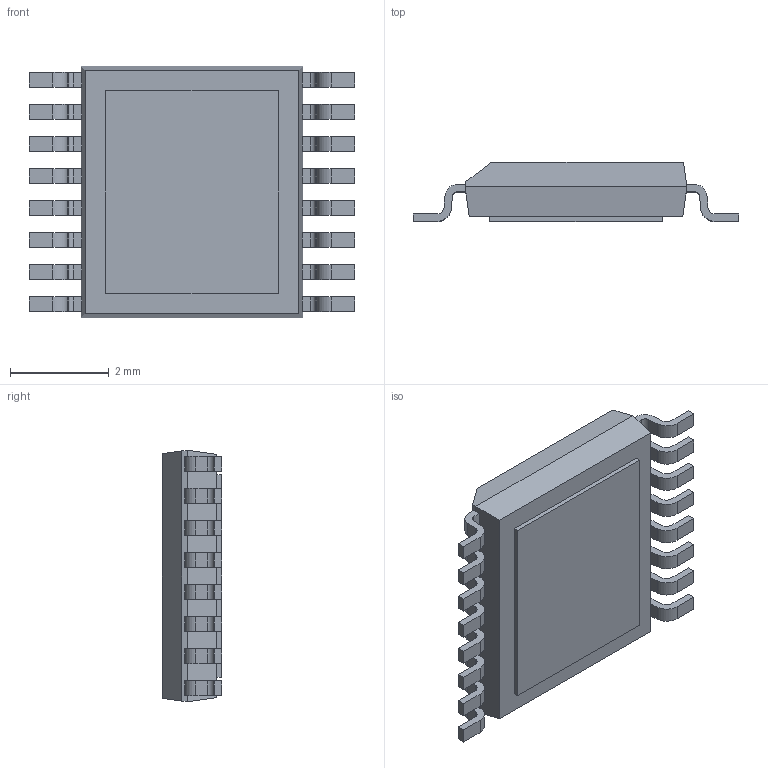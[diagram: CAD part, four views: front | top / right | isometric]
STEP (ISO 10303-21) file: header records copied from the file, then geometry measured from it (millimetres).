
FILE_DESCRIPTION (( 'STEP AP214' ), '1' );
FILE_NAME ('TSOP65P640X120-16TP_MO-153.ABT.STEP', '2014-10-29T08:19:20', ( 'Tester2' ), ( '' ), 'SwSTEP 2.0', 'SolidWorks 2012', '' );
FILE_SCHEMA (( 'AUTOMOTIVE_DESIGN' ));
Length unit declared in the file: millimetre
Products named in the file (1): TSOP65P640X120-16TP_MO-153.ABT
Bounding box: 6.6 x 1.2 x 5.1 mm (x, y, z)
Volume: 26.4 mm3; surface area: 85.5 mm2
Topology: 1 solids, 1 shells, 227 faces, 665 edges, 442 vertices
Faces by surface type: plane 161, cylinder 66
Entity records: 9909 total; most frequent: CARTESIAN_POINT 1335, ORIENTED_EDGE 1330, DIRECTION 1253, EDGE_CURVE 665, VECTOR 533, LINE 533, VERTEX_POINT 442, AXIS2_PLACEMENT_3D 360
